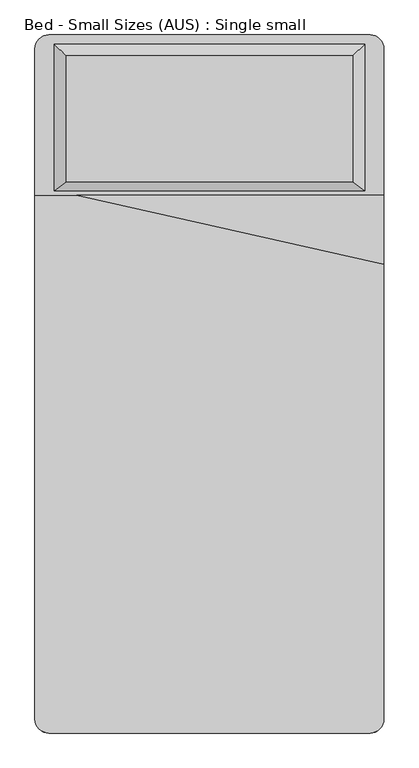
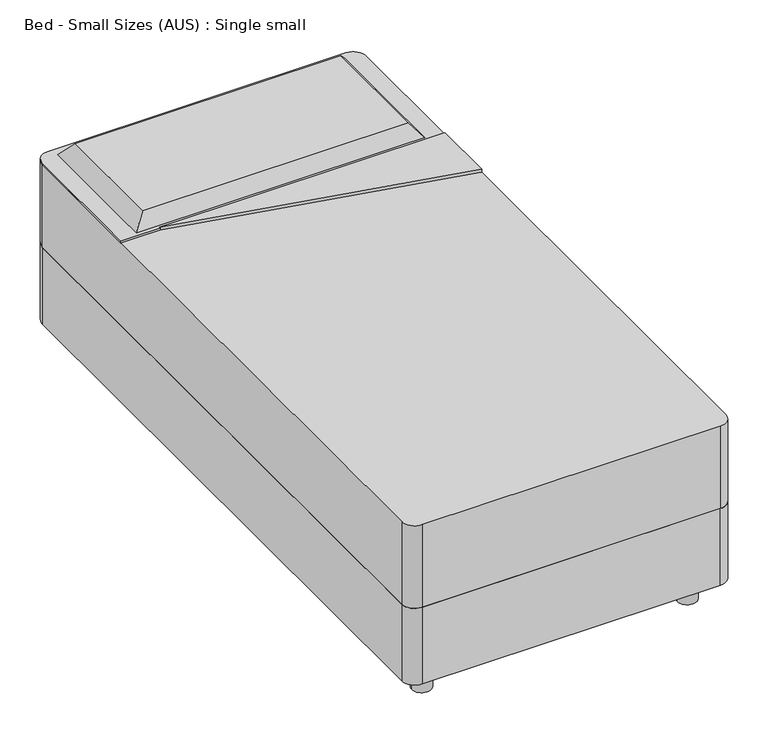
"""IFC4 building model written with IfcOpenShell, lengths in millimetres: furniture geometry, Bed - Small Sizes (AUS) : Single small."""

from ifc_helpers import new_model, si_unit, point, frame, frame_2d, origin, origin_with_axes, place, context, project, spatial, polyline, circle_curve, trimmed, segment, composite_curve, outline, extrude, faceted_brep, source, transform, mapped, element, save


def bed_small_sizes_aus_single_small_9a9299e8(model_context):
    return source(origin(), model_context, "Body", "SolidModel", [
        faceted_brep([(387.3259905, -420.0, 650.0), (387.3259905, -60.0, 650.0), (-432.6740095, -60.0, 650.0), (-432.6740095, -420.0, 650.0), (422.4579512, -446.2118726, 605.0), (-467.5420488, -446.2118726, 605.0), (-467.5420488, -26.2118726, 605.0), (422.4579512, -26.2118726, 605.0)], [[[0, 1, 2, 3]], [[4, 5, 6, 7]], [[4, 7, 1, 0]], [[7, 6, 2, 1]], [[6, 5, 3, 2]], [[5, 4, 0, 3]]]),
        extrude(outline(composite_curve([segment(trimmed(circle_curve(frame_2d((-432.6740095, -90.0)), 30.0), [point((-462.6740095, -90.0))], [point((-402.6740095, -90.0))], False, "CARTESIAN"), True, "CONTINUOUS"), segment(trimmed(circle_curve(frame_2d((-432.6740095, -90.0)), 30.0), [point((-402.6740095, -90.0))], [point((-462.6740095, -90.0))], False, "CARTESIAN"), True, "CONTINUOUS")], self_intersect=False)), origin_with_axes(), (0.0, 0.0, 1.0), 80.0),
        extrude(outline(composite_curve([segment(trimmed(circle_curve(frame_2d((387.3259905, -90.0)), 30.0), [point((357.3259905, -90.0))], [point((417.3259905, -90.0))], False, "CARTESIAN"), True, "CONTINUOUS"), segment(trimmed(circle_curve(frame_2d((387.3259905, -90.0)), 30.0), [point((417.3259905, -90.0))], [point((357.3259905, -90.0))], False, "CARTESIAN"), True, "CONTINUOUS")], self_intersect=False)), origin_with_axes(), (0.0, 0.0, 1.0), 80.0),
        extrude(outline(composite_curve([segment(trimmed(circle_curve(frame_2d((-432.6740095, -1910.0)), 30.0), [point((-462.6740095, -1910.0))], [point((-402.6740095, -1910.0))], False, "CARTESIAN"), True, "CONTINUOUS"), segment(trimmed(circle_curve(frame_2d((-432.6740095, -1910.0)), 30.0), [point((-402.6740095, -1910.0))], [point((-462.6740095, -1910.0))], False, "CARTESIAN"), True, "CONTINUOUS")], self_intersect=False)), origin_with_axes(), (0.0, 0.0, 1.0), 80.0),
        extrude(outline(composite_curve([segment(trimmed(circle_curve(frame_2d((387.3259905, -1910.0)), 30.0), [point((357.3259905, -1910.0))], [point((417.3259905, -1910.0))], False, "CARTESIAN"), True, "CONTINUOUS"), segment(trimmed(circle_curve(frame_2d((387.3259905, -1910.0)), 30.0), [point((417.3259905, -1910.0))], [point((357.3259905, -1910.0))], False, "CARTESIAN"), True, "CONTINUOUS")], self_intersect=False)), origin_with_axes(), (0.0, 0.0, 1.0), 80.0),
        extrude(outline(composite_curve([segment(polyline([(437.3259905, -2000.0), (-482.6740095, -2000.0)]), True, "CONTINUOUS"), segment(trimmed(circle_curve(frame_2d((-482.6740095, -1960.0)), 40.0), [point((-482.6740095, -2000.0))], [point((-522.6740095, -1960.0))], False, "CARTESIAN"), True, "CONTINUOUS"), segment(polyline([(-522.6740095, -1960.0), (-522.6740095, -40.0)]), True, "CONTINUOUS"), segment(trimmed(circle_curve(frame_2d((-482.6740095, -40.0)), 40.0), [point((-522.6740095, -40.0))], [point((-482.6740095, 0.0))], False, "CARTESIAN"), True, "CONTINUOUS"), segment(polyline([(-482.6740095, 0.0), (437.3259905, 0.0)]), True, "CONTINUOUS"), segment(trimmed(circle_curve(frame_2d((437.3259905, -40.0)), 40.0), [point((437.3259905, 0.0))], [point((477.3259905, -40.0))], False, "CARTESIAN"), True, "CONTINUOUS"), segment(polyline([(477.3259905, -40.0), (477.3259905, -1960.0)]), True, "CONTINUOUS"), segment(trimmed(circle_curve(frame_2d((437.3259905, -1960.0)), 40.0), [point((477.3259905, -1960.0))], [point((437.3259905, -2000.0))], False, "CARTESIAN"), True, "CONTINUOUS")], self_intersect=False)), frame((0.0, 0.0, 80.0), z_axis=(0.0, 0.0, 1.0), x_axis=(1.0, 0.0, 0.0)), (0.0, 0.0, 1.0), 250.0),
        extrude(outline(composite_curve([segment(polyline([(477.3259905, -460.0), (-522.6740095, -460.0), (-522.6740095, -40.0)]), True, "CONTINUOUS"), segment(trimmed(circle_curve(frame_2d((-482.6740095, -40.0)), 40.0), [point((-522.6740095, -40.0))], [point((-482.6740095, 0.0))], False, "CARTESIAN"), True, "CONTINUOUS"), segment(polyline([(-482.6740095, 0.0), (437.3259905, 0.0)]), True, "CONTINUOUS"), segment(trimmed(circle_curve(frame_2d((437.3259905, -40.0)), 40.0), [point((437.3259905, 0.0))], [point((477.3259905, -40.0))], False, "CARTESIAN"), True, "CONTINUOUS"), segment(polyline([(477.3259905, -40.0), (477.3259905, -460.0)]), True, "CONTINUOUS")], self_intersect=False)), frame((0.0, 0.0, 600.0), z_axis=(0.0, 0.0, 1.0), x_axis=(1.0, 0.0, 0.0)), (0.0, 0.0, 1.0), 5.0),
        extrude(outline(polyline([(477.3259905, -460.0), (477.3259905, -657.6776024), (-402.6740095, -460.0), (477.3259905, -460.0)])), frame((0.0, 0.0, 600.0), z_axis=(0.0, 0.0, 1.0), x_axis=(1.0, 0.0, 0.0)), (0.0, 0.0, 1.0), 10.0),
        extrude(outline(composite_curve([segment(trimmed(circle_curve(frame_2d((-482.6740095, -40.0)), 40.0), [point((-522.6740095, -40.0))], [point((-482.6740095, 0.0))], False, "CARTESIAN"), True, "CONTINUOUS"), segment(polyline([(-482.6740095, 0.0), (437.3259905, 0.0)]), True, "CONTINUOUS"), segment(trimmed(circle_curve(frame_2d((437.3259905, -40.0)), 40.0), [point((437.3259905, 0.0))], [point((477.3259905, -40.0))], False, "CARTESIAN"), True, "CONTINUOUS"), segment(polyline([(477.3259905, -40.0), (477.3259905, -1960.0)]), True, "CONTINUOUS"), segment(trimmed(circle_curve(frame_2d((437.3259905, -1960.0)), 40.0), [point((477.3259905, -1960.0))], [point((437.3259905, -2000.0))], False, "CARTESIAN"), True, "CONTINUOUS"), segment(polyline([(437.3259905, -2000.0), (-482.6740095, -2000.0)]), True, "CONTINUOUS"), segment(trimmed(circle_curve(frame_2d((-482.6740095, -1960.0)), 40.0), [point((-482.6740095, -2000.0))], [point((-522.6740095, -1960.0))], False, "CARTESIAN"), True, "CONTINUOUS"), segment(polyline([(-522.6740095, -1960.0), (-522.6740095, -40.0)]), True, "CONTINUOUS")], self_intersect=False)), frame((0.0, 0.0, 330.0), z_axis=(0.0, 0.0, 1.0), x_axis=(1.0, 0.0, 0.0)), (0.0, 0.0, 1.0), 270.0),
    ])


if __name__ == "__main__":
    model = new_model("IFC4")
    model_context = context("Model", 3, world=origin())
    ifc_project = project(units=[si_unit("LENGTHUNIT", "METRE", prefix="MILLI")], contexts=[model_context])
    site = spatial("IfcSite", under=ifc_project)
    building = spatial("IfcBuilding", under=site)
    placement = place(None, origin())
    bed_small_sizes_aus_single_small_shape = bed_small_sizes_aus_single_small_9a9299e8(model_context)
    element("IfcFurniture", 1, ObjectType="Bed - Small Sizes (AUS) : Single small", at=placement, inside=building, context=model_context, shape_type="MappedRepresentation", body=[
        mapped(bed_small_sizes_aus_single_small_shape, transform((0.0, 0.0, 0.0), x_axis=(1.0, 0.0, 0.0), y_axis=(0.0, 1.0, 0.0), z_axis=(0.0, 0.0, 1.0))),
    ])
    save(model, "model.ifc")
